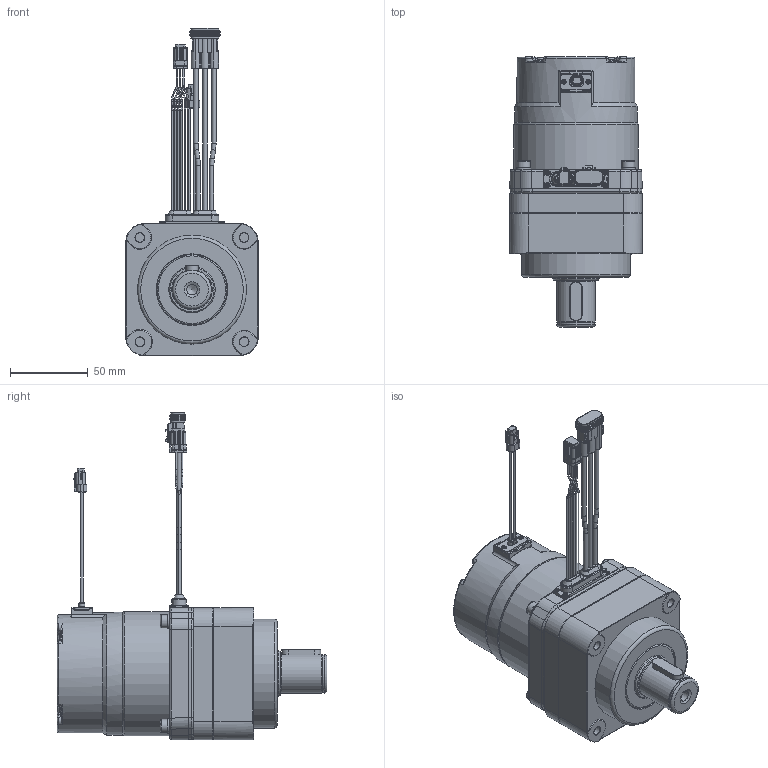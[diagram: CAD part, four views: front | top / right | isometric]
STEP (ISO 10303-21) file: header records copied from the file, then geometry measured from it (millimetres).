
FILE_DESCRIPTION(/* description */ (''),/* implementation_level */ '2;1');
FILE_NAME(/* name */ 'MS94BZB_outsidemodel.stp',/* time_stamp */ '2021-07-20T09:23:06+09:00',/* author */ (''),/* organization */ (''),/* preprocessor_version */ 'ST-DEVELOPER v16.7',/* originating_system */ 'SIEMENS PLM Software NX 12.0',/* authorisation */ '');
FILE_SCHEMA (('AUTOMOTIVE_DESIGN { 1 0 10303 214 3 1 1 1 }'));
Length unit declared in the file: millimetre
Products named in the file (1): MS94BZB_outsidemodel
Bounding box: 85 x 173.5 x 210.5 mm (x, y, z)
Volume: 805735.2 mm3; surface area: 83387.5 mm2
Topology: 1 solids, 26 shells, 2241 faces, 5366 edges, 3206 vertices
Faces by surface type: cylinder 867, plane 807, torus 273, bspline 140, cone 76, sphere 72, revolution 6
Full cylindrical faces by diameter (mm): 1 x30, 1.02 x6, 1.1 x1, 1.6 x2, 1.7 x2, 1.9 x2, 2.8 x7, 3 x8, 3.01 x2, 3.025 x6, 4.41 x2, 4.5 x5, 5 x5, 5.25 x4, 5.3 x4, 5.55 x4, 6 x8, 6.3 x4, 6.5 x4, 6.8 x1, 8.5 x4, 9.2 x4, 10.3 x4, 23.795 x1, 24.994 x1, 29.8 x1, 29.983 x1, 30 x1, 46 x1, 70 x1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
Entity records: 76270 total; most frequent: CARTESIAN_POINT 16227, DIRECTION 10556, ORIENTED_EDGE 9976, EDGE_CURVE 4988, AXIS2_PLACEMENT_3D 4021, VERTEX_POINT 3131, EDGE_LOOP 2622, LINE 2508
